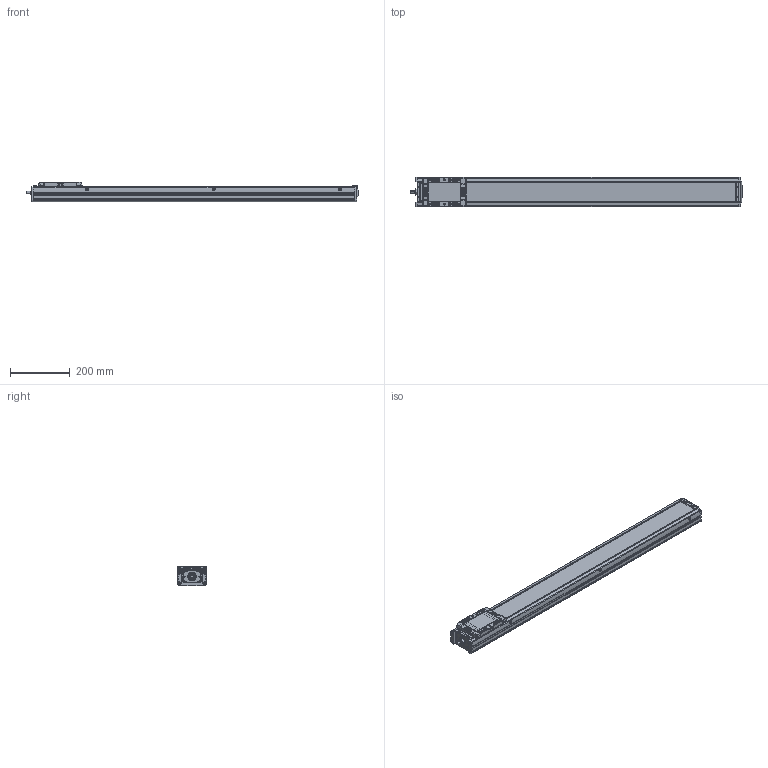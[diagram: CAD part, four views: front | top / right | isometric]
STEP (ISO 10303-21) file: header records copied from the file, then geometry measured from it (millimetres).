
FILE_DESCRIPTION(('STEP AP214'),'1');
FILE_NAME('Z:/Web/3D/SAN100/SAN100 양산용 (STEP)/SAN100ㅁㅁ-900.stp','2013-04-30T04:06:39',(' '),(' '),'Spatial InterOp 3D',' ',' ');
FILE_SCHEMA(('automotive_design'));
Length unit declared in the file: millimetre
Products named in the file (36): SUS COVER; SFX-SAN100; RRCV-SAN100; 스크루 : Round - M4.0 x 10.0; M3.0 x 6.0; 스크루 : Round - M3.0 x 6.0; FRBL-SAN100; SLBL-SAN100; SLCV-SAN100; 스크루 : Countersunk - M3.0 x 6.0; BASE; 스크루 : Round - M5.0 x 6.0; 너트 : Square - M10.0 x 220.7419; RR1500-000L; FRCV-SAN100
Bounding box: 1116 x 100 x 66 mm (x, y, z)
Volume: 2902007.7 mm3; surface area: 703816.2 mm2
Topology: 36 solids, 37 shells, 2096 faces, 5472 edges, 3509 vertices
Faces by surface type: plane 1001, cylinder 795, cone 214, sphere 48, torus 26, bspline 12
Entity records: 82859 total; most frequent: CARTESIAN_POINT 12791, DIRECTION 11511, ORIENTED_EDGE 10740, EDGE_CURVE 5370, AXIS2_PLACEMENT_3D 4170, VERTEX_POINT 3509, LINE 3171, VECTOR 3171
